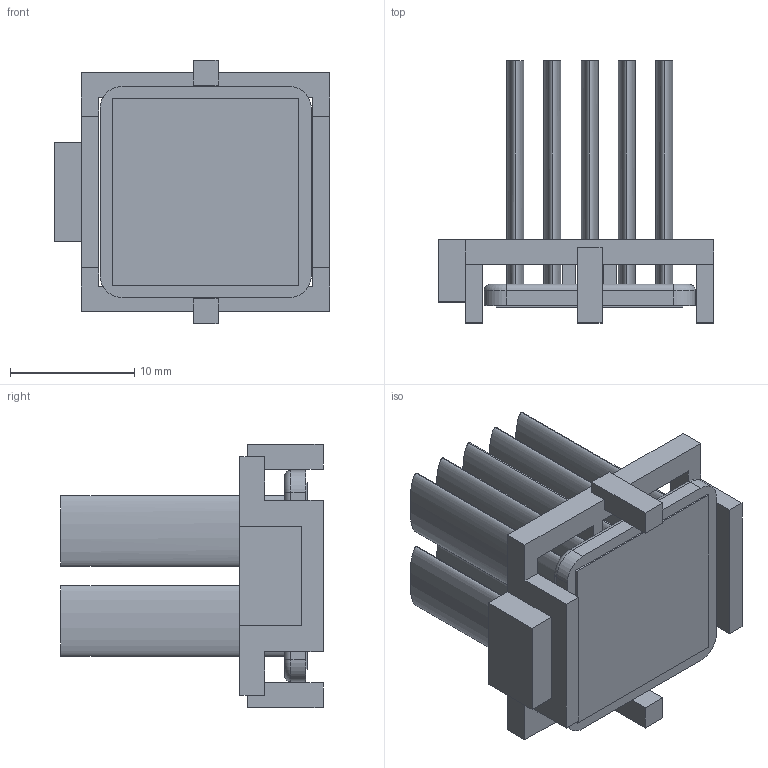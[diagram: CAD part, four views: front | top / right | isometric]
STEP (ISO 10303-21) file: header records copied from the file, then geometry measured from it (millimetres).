
FILE_DESCRIPTION (( 'STEP AP214' ), '1' );
FILE_NAME ('INM17001-20W-1.7BU.STEP', '2023-03-01T23:06:33', ( '' ), ( '' ), 'SwSTEP 2.0', 'SolidWorks 2020', '' );
FILE_SCHEMA (( 'AUTOMOTIVE_DESIGN' ));
Length unit declared in the file: millimetre
Products named in the file (1): INM17001-20W-1.7BU
Bounding box: 22.2 x 21.1 x 21.2 mm (x, y, z)
Volume: 2212 mm3; surface area: 4364.5 mm2
Topology: 3 solids, 3 shells, 99 faces, 244 edges, 160 vertices
Faces by surface type: plane 67, bspline 20, cylinder 8, torus 4
Entity records: 4079 total; most frequent: CARTESIAN_POINT 764, ORIENTED_EDGE 488, DIRECTION 384, EDGE_CURVE 244, VECTOR 184, LINE 184, VERTEX_POINT 160, EDGE_LOOP 110
